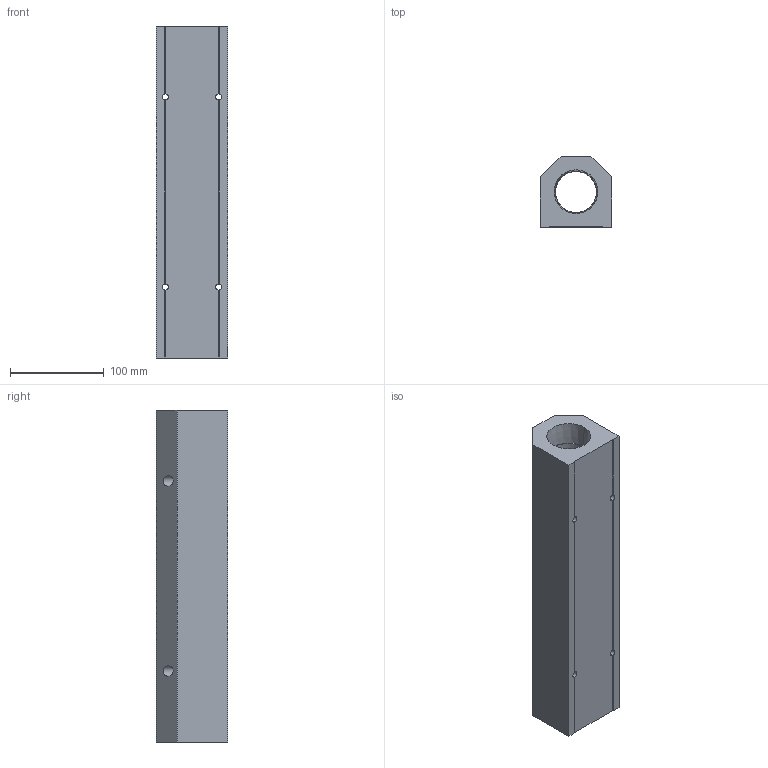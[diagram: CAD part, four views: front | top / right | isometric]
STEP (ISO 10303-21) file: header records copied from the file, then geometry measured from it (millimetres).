
FILE_DESCRIPTION (( 'STEP AP214' ), '1' );
FILE_NAME ('ALM6C-N6N24-355B.step', '2022-02-07T09:08:27', ( '' ), ( '' ), 'SwSTEP 2.0', 'SolidWorks 2020', '' );
FILE_SCHEMA (( 'AUTOMOTIVE_DESIGN' ));
Length unit declared in the file: millimetre
Products named in the file (1): ALM6C-N6N24-355B
Bounding box: 76.2 x 76.2 x 355 mm (x, y, z)
Volume: 1299490.5 mm3; surface area: 163851.3 mm2
Topology: 1 solids, 1 shells, 298 faces, 790 edges, 524 vertices
Faces by surface type: plane 189, bspline 75, cylinder 18, cone 16
Entity records: 17051 total; most frequent: CARTESIAN_POINT 7344, ORIENTED_EDGE 1580, DIRECTION 1108, EDGE_CURVE 790, LINE 564, VECTOR 564, VERTEX_POINT 524, EDGE_LOOP 350
